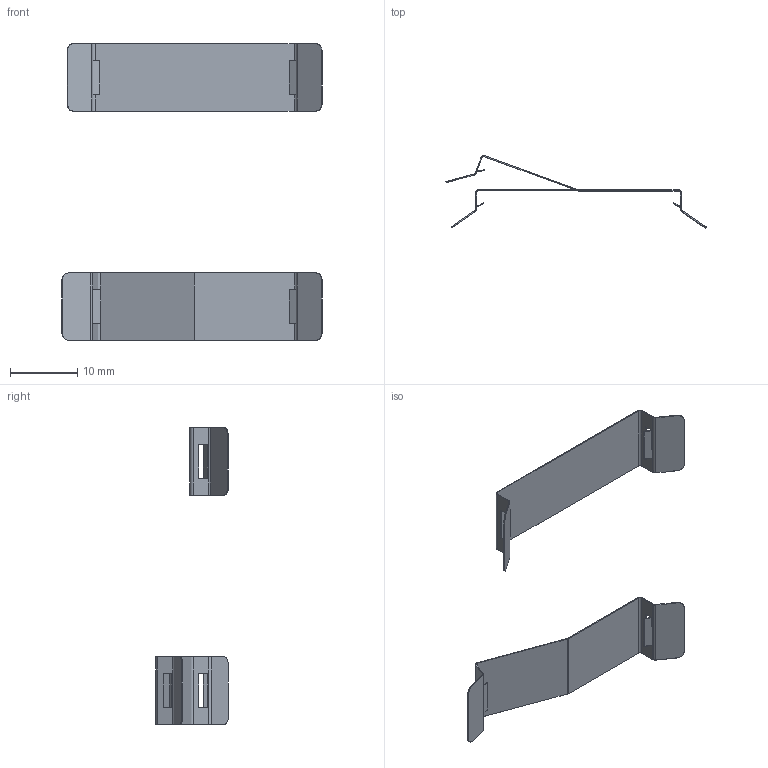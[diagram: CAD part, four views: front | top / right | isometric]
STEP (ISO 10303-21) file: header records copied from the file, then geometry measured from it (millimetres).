
FILE_DESCRIPTION(/* description */ (''),/* implementation_level */ '2;1');
FILE_NAME(/* name */ '',/* time_stamp */ '2014-05-29T14:51:09+08:00',/* author */ (''),/* organization */ (''),/* preprocessor_version */ 'ST-DEVELOPER v14',/* originating_system */ 'SIEMENS PLM Software NX 8.0',/* authorisation */ '');
FILE_SCHEMA (('AUTOMOTIVE_DESIGN { 1 0 10303 214 3 1 1 1 }'));
Length unit declared in the file: millimetre
Products named in the file (1): yeji1348CF90bpep
Bounding box: 38.56 x 10.75 x 44 mm (x, y, z)
Volume: 133.5 mm3; surface area: 1828.3 mm2
Topology: 2 solids, 2 shells, 90 faces, 250 edges, 164 vertices
Faces by surface type: plane 62, cylinder 28
Entity records: 2929 total; most frequent: CARTESIAN_POINT 506, ORIENTED_EDGE 500, DIRECTION 490, EDGE_CURVE 250, LINE 194, VECTOR 194, VERTEX_POINT 164, AXIS2_PLACEMENT_3D 148
